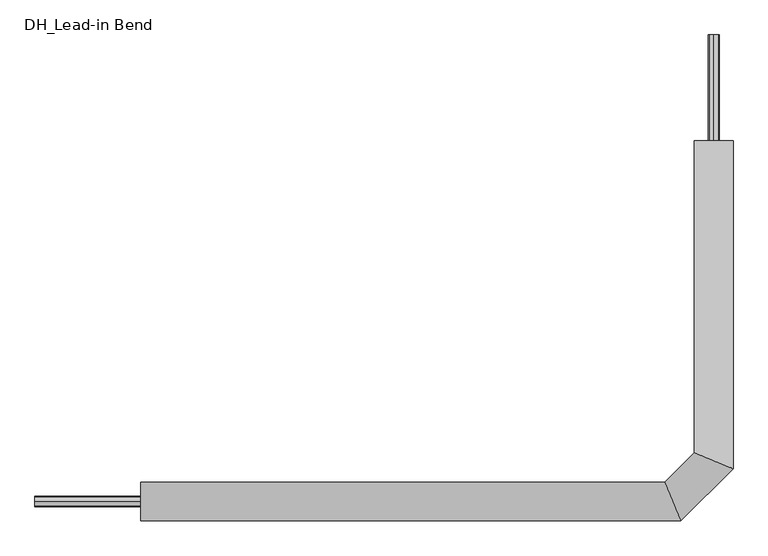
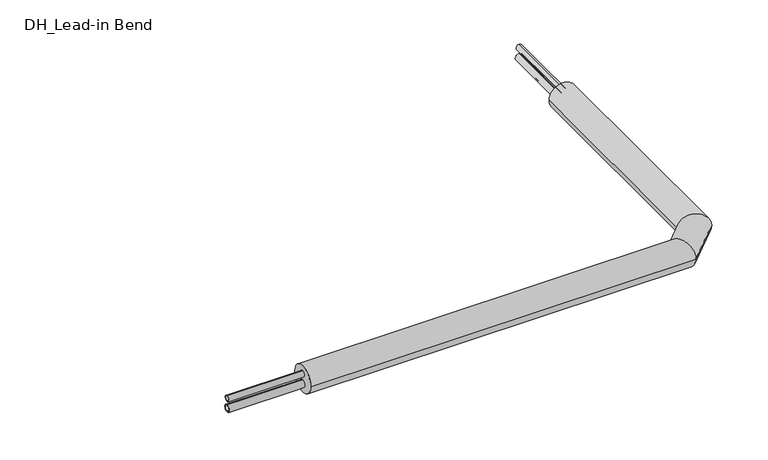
"""IFC4 building model written with IfcOpenShell, lengths in millimetres: pipe fitting geometry, DH_Lead-in Bend : RVT/RVX/RTX DUO 7.4 MKV DW Horizontal."""

import ifcopenshell
import ifcopenshell.guid

model = None  # the IFC model being written
_history = None  # IfcOwnerHistory: only IFC2X3 demands one
_inside = {}  # id of a spatial element -> (the spatial element, [elements in it])
_under = {}  # id of a project, library or spatial element -> (it, [spatial elements below it])
_declared = {}  # id of a project -> (the project, [libraries it declares])
_typed = {}  # id of a type object -> (the type object, [elements of that type])
_made_of = {}  # id of a material, layer set ... -> (it, [elements and type objects made of it])


def new_model(schema):
    """Start an empty IFC model of exactly this schema.

    Asked for "IFC4X3", IfcOpenShell would pick the latest addendum, in which some entities
    have other attributes; the version numbers below select the first issue.
    IFC2X3 requires an IfcOwnerHistory on every rooted entity: one is made here for all.
    """
    global model, _history
    if schema == "IFC4X3":
        model = ifcopenshell.file(schema_version=(4, 3, 0, 0))
    else:
        model = ifcopenshell.file(schema=schema)
    _inside.clear()
    _under.clear()
    _declared.clear()
    _typed.clear()
    _made_of.clear()
    _history = None
    if model.schema == "IFC2X3":
        org = make("IfcOrganization", Name="unknown")
        user = make(
            "IfcPersonAndOrganization",
            ThePerson=make("IfcPerson", FamilyName="unknown"),
            TheOrganization=org,
        )
        app = make(
            "IfcApplication",
            ApplicationDeveloper=org,
            Version="unknown",
            ApplicationFullName="unknown",
            ApplicationIdentifier="unknown",
        )
        _history = make(
            "IfcOwnerHistory",
            OwningUser=user,
            OwningApplication=app,
            ChangeAction="ADDED",
            CreationDate=0,
        )
    return model


def make(cls, **values):
    """One entity of the class cls with the attributes given. An attribute that is None is left unset."""
    return model.create_entity(
        cls, **{name: value for name, value in values.items() if value is not None}
    )


def rooted(cls, **values):
    """An entity with a GlobalId (a new one), such as an element, a storey or a relation."""
    return make(cls, GlobalId=ifcopenshell.guid.new(), OwnerHistory=_history, **values)


def si_unit(unit_type, name, prefix=None):
    """IfcSIUnit, for example si_unit("LENGTHUNIT", "METRE", prefix="MILLI")."""
    return make("IfcSIUnit", UnitType=unit_type, Prefix=prefix, Name=name)


def assignment(units):
    """IfcUnitAssignment: the units of a project."""
    return None if units is None else make("IfcUnitAssignment", Units=units)


def point(xyz):
    """IfcCartesianPoint."""
    return None if xyz is None else make("IfcCartesianPoint", Coordinates=xyz)


def direction(xyz):
    """IfcDirection."""
    return None if xyz is None else make("IfcDirection", DirectionRatios=xyz)


def frame(location, z_axis=None, x_axis=None):
    """IfcAxis2Placement3D, a coordinate frame: its origin and axes. An axis left out is left unset."""
    return make(
        "IfcAxis2Placement3D",
        Location=point(location),
        Axis=direction(z_axis),
        RefDirection=direction(x_axis),
    )


def frame_2d(location, x_axis=None):
    """IfcAxis2Placement2D, a coordinate frame in the plane: its origin and x axis."""
    return make(
        "IfcAxis2Placement2D", Location=point(location), RefDirection=direction(x_axis)
    )


def origin():
    """The frame at (0, 0, 0) with its axes left unset."""
    return frame((0.0, 0.0, 0.0))


def place(relative_to, where):
    """IfcLocalPlacement: puts the frame where relative to a parent placement (None: the world)."""
    return make(
        "IfcLocalPlacement", PlacementRelTo=relative_to, RelativePlacement=where
    )


def context(
    kind, dimensions, precision=None, world=None, true_north=None, identifier=None
):
    """IfcGeometricRepresentationContext, for example the 3D "Model" context."""
    return make(
        "IfcGeometricRepresentationContext",
        ContextIdentifier=identifier,
        ContextType=kind,
        CoordinateSpaceDimension=dimensions,
        Precision=precision,
        WorldCoordinateSystem=world,
        TrueNorth=true_north,
    )


def project(units=None, contexts=None):
    """IfcProject with its units and contexts."""
    return rooted(
        "IfcProject",
        Name="project",
        RepresentationContexts=contexts,
        UnitsInContext=assignment(units),
    )


def spatial(cls, under=None, at=None, **own):
    """A site, building, storey or space (cls), placed at a placement, below another one or the project."""
    s = rooted(cls, ObjectPlacement=at, **own)
    if under is not None:
        _under.setdefault(under.id(), (under, []))[1].append(s)
    return s


def circle_curve(where, radius):
    """IfcCircle in the frame where."""
    return make("IfcCircle", Position=where, Radius=radius)


def ellipse_curve(where, semi_axis1, semi_axis2):
    """IfcEllipse in the frame where."""
    return make(
        "IfcEllipse", Position=where, SemiAxis1=semi_axis1, SemiAxis2=semi_axis2
    )


def trimmed(basis, trim1, trim2, sense, master):
    """IfcTrimmedCurve: the piece of a basis curve between two trims."""
    return make(
        "IfcTrimmedCurve",
        BasisCurve=basis,
        Trim1=trim1,
        Trim2=trim2,
        SenseAgreement=sense,
        MasterRepresentation=master,
    )


def segment(curve, same_sense, transition):
    """IfcCompositeCurveSegment."""
    return make(
        "IfcCompositeCurveSegment",
        Transition=transition,
        SameSense=same_sense,
        ParentCurve=curve,
    )


def composite_curve(segments, self_intersect=None):
    """IfcCompositeCurve: segments joined end to end."""
    return make("IfcCompositeCurve", Segments=segments, SelfIntersect=self_intersect)


def outline(outer, holes=None, kind="AREA"):
    """IfcArbitraryClosedProfileDef: a profile drawn as a closed curve; with holes, ...WithVoids."""
    if holes is None:
        return make("IfcArbitraryClosedProfileDef", ProfileType=kind, OuterCurve=outer)
    return make(
        "IfcArbitraryProfileDefWithVoids",
        ProfileType=kind,
        OuterCurve=outer,
        InnerCurves=holes,
    )


def extrude(swept, where, along, depth):
    """IfcExtrudedAreaSolid: the profile swept, set in the frame where, extruded along a direction by depth."""
    return make(
        "IfcExtrudedAreaSolid",
        SweptArea=swept,
        Position=where,
        ExtrudedDirection=direction(along),
        Depth=depth,
    )


def shape(context_of_items, identifier, shape_type, items):
    """IfcShapeRepresentation: the items that make up one representation, for example the "Body"."""
    return make(
        "IfcShapeRepresentation",
        ContextOfItems=context_of_items,
        RepresentationIdentifier=identifier,
        RepresentationType=shape_type,
        Items=items,
    )


def source(mapping_origin, context_of_items, identifier, shape_type, items):
    """IfcRepresentationMap: a shape defined once, which mapped items show again and again."""
    return make(
        "IfcRepresentationMap",
        MappingOrigin=mapping_origin,
        MappedRepresentation=shape(context_of_items, identifier, shape_type, items),
    )


def transform(
    local_origin,
    x_axis=None,
    y_axis=None,
    z_axis=None,
    scale=None,
    scale2=None,
    scale3=None,
    uniform=True,
):
    """IfcCartesianTransformationOperator3D, or its non-uniform kind. x_axis, y_axis, z_axis: its Axis1, 2, 3."""
    if uniform:
        return make(
            "IfcCartesianTransformationOperator3D",
            Axis1=direction(x_axis),
            Axis2=direction(y_axis),
            LocalOrigin=point(local_origin),
            Scale=scale,
            Axis3=direction(z_axis),
        )
    return make(
        "IfcCartesianTransformationOperator3DnonUniform",
        Axis1=direction(x_axis),
        Axis2=direction(y_axis),
        LocalOrigin=point(local_origin),
        Scale=scale,
        Axis3=direction(z_axis),
        Scale2=scale2,
        Scale3=scale3,
    )


def mapped(mapping_source, mapping_target):
    """IfcMappedItem: shows the shape of a source again, moved by a transform."""
    return make(
        "IfcMappedItem", MappingSource=mapping_source, MappingTarget=mapping_target
    )


def made_of(thing, what):
    """Note that an element or type object is made of a material, layer set ...; save() writes the relation."""
    if what is not None:
        _made_of.setdefault(what.id(), (what, []))[1].append(thing)
    return thing


def element(
    cls,
    number,
    at=None,
    inside=None,
    cuts=None,
    type_object=None,
    material=None,
    context=None,
    identifier="Body",
    shape_type=None,
    held_by="IfcProductDefinitionShape",
    body=None,
    shapes=None,
    **own,
):
    """One element of the class cls, such as IfcWall. Its Tag is "e" and its number.

    at: its placement. inside: the storey or other place that contains it. cuts: it is an
    opening in that element (IfcRelVoidsElement). A single representation is given by context,
    identifier, shape_type and body (its items); several are given by shapes. held_by: the class
    of the entity that holds the representations. save() writes the other relations.
    """
    e = rooted(cls, Tag="e%d" % number, ObjectPlacement=at, **own)
    if body is not None:
        shapes = [shape(context, identifier, shape_type, body)]
    if shapes is not None:
        e.Representation = make(held_by, Representations=shapes)
    if inside is not None:
        _inside.setdefault(inside.id(), (inside, []))[1].append(e)
    if cuts is not None:
        rooted(
            "IfcRelVoidsElement", RelatingBuildingElement=cuts, RelatedOpeningElement=e
        )
    if type_object is not None:
        _typed.setdefault(type_object.id(), (type_object, []))[1].append(e)
    return made_of(e, material)


def aggregate(whole, parts):
    """IfcRelAggregates: a whole, such as a stair, and the parts it consists of."""
    return rooted("IfcRelAggregates", RelatingObject=whole, RelatedObjects=parts)


def save(model, path):
    """Write the relations noted so far, then the file.

    IfcRelAggregates (storeys below a building ...), IfcRelContainedInSpatialStructure (elements
    in a storey), IfcRelDefinesByType, IfcRelAssociatesMaterial and IfcRelDeclares: one each for
    every whole, place, type object, material and project.
    """
    for whole, parts in _under.values():
        aggregate(whole, parts)
    for where, things in _inside.values():
        rooted(
            "IfcRelContainedInSpatialStructure",
            RelatedElements=things,
            RelatingStructure=where,
        )
    for kind, things in _typed.values():
        rooted("IfcRelDefinesByType", RelatedObjects=things, RelatingType=kind)
    for what, things in _made_of.values():
        rooted("IfcRelAssociatesMaterial", RelatedObjects=things, RelatingMaterial=what)
    for by, libraries in _declared.values():
        rooted("IfcRelDeclares", RelatingContext=by, RelatedDefinitions=libraries)
    model.write(path)


def plane_surface(at):
    """IfcPlane: the flat surface through the origin of the frame at, square to its z axis."""
    return make("IfcPlane", Position=at)


def cylinder_surface(at, radius):
    """IfcCylindricalSurface: all points at the distance radius from the z axis of the frame at."""
    return make("IfcCylindricalSurface", Position=at, Radius=radius)


def advanced_brep(points, edges, surfaces, faces):
    """IfcAdvancedBrep: a solid bounded by faces that lie on surfaces and meet in shared edges.

    An edge is (start, end): straight between two places in points (the first is 0);
    or (start, end, curve); or (start, end, curve, False) where it runs against its curve.
    A face is (place in surfaces, loops), or (place, loops, False) where it looks against
    its surface's normal. A loop lists edges by number (the first is 1), with a minus sign
    where the edge is run from its end to its start. The first loop is the outer one.
    """
    corners = [point(p) for p in points]
    vertices = [make("IfcVertexPoint", VertexGeometry=c) for c in corners]
    made = []
    for start, end, *more in edges:
        made.append(
            make(
                "IfcEdgeCurve",
                EdgeStart=vertices[start],
                EdgeEnd=vertices[end],
                EdgeGeometry=more[0] if more else make("IfcPolyline", Points=[corners[start], corners[end]]),
                SameSense=more[1] if len(more) > 1 else True,
            )
        )
    hull = []
    for where, loops, *sense in faces:
        bounds = []
        for j, loop in enumerate(loops):
            ring = [make("IfcOrientedEdge", EdgeElement=made[abs(k) - 1], Orientation=k > 0) for k in loop]
            bounds.append(
                make(
                    "IfcFaceOuterBound" if j == 0 else "IfcFaceBound",
                    Bound=make("IfcEdgeLoop", EdgeList=ring),
                    Orientation=True,
                )
            )
        hull.append(make("IfcAdvancedFace", Bounds=bounds, FaceSurface=surfaces[where], SameSense=sense[0] if sense else True))
    return make("IfcAdvancedBrep", Outer=make("IfcClosedShell", CfsFaces=hull))


def dh_lead_in_bend_6a66a6e7(model_context):
    return source(origin(), model_context, "Body", "SolidModel", [
        extrude(outline(composite_curve([segment(trimmed(circle_curve(frame_2d((0.0, -16.0)), 12.5), [point((0.0, -3.5))], [point((0.0, -28.5))], False, "CARTESIAN"), True, "CONTINUOUS"), segment(trimmed(circle_curve(frame_2d((0.0, -16.0)), 12.5), [point((0.0, -28.5))], [point((0.0, -3.5))], False, "CARTESIAN"), True, "CONTINUOUS")], self_intersect=False), holes=[composite_curve([segment(trimmed(circle_curve(frame_2d((0.0, -16.0)), 9.0), [point((0.0, -7.0))], [point((0.0, -25.0))], True, "CARTESIAN"), True, "CONTINUOUS"), segment(trimmed(circle_curve(frame_2d((0.0, -16.0)), 9.0), [point((0.0, -25.0))], [point((0.0, -7.0))], True, "CARTESIAN"), True, "CONTINUOUS")], self_intersect=False)]), frame((-1600.0, 0.0, 0.0), z_axis=(1.0, 0.0, 0.0), x_axis=(0.0, 1.0, 0.0)), (0.0, 0.0, 1.0), 250.0),
        advanced_brep(
        [(-1350.0, -45.5, 0.0), (-1350.0, 45.5, 0.0), (-77.6532829, -45.5, 0.0), (-115.3467171, 45.5, 0.0), (45.5, 850.0, 0.0), (-45.5, 850.0, 0.0), (-45.5, 115.3467171, 0.0), (45.5, 77.6532829, 0.0)],
        [
            (0, 1, circle_curve(frame((-1350.0, 0.0, 0.0), z_axis=(-1.0, 0.0, 0.0), x_axis=(0.0, 1.0, 0.0)), 45.5)),
            (1, 0, circle_curve(frame((-1350.0, 0.0, 0.0), z_axis=(-1.0, 0.0, 0.0), x_axis=(0.0, 1.0, 0.0)), 45.5)),
            (0, 2),
            (2, 3, ellipse_curve(frame((-96.5, 0.0, 0.0), z_axis=(-0.9238795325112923, -0.38268343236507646, 0.0), x_axis=(-0.38268343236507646, 0.9238795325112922, 0.0)), 49.2488451, 45.5)),
            (3, 1),
            (3, 2, ellipse_curve(frame((-96.5, 0.0, 0.0), z_axis=(-0.9238795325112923, -0.38268343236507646, 0.0), x_axis=(-0.38268343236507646, 0.9238795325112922, 0.0)), 49.2488451, 45.5)),
            (4, 5, circle_curve(frame((0.0, 850.0, 0.0), z_axis=(0.0, 1.0, 0.0), x_axis=(-1.0, 0.0, 0.0)), 45.5)),
            (5, 4, circle_curve(frame((0.0, 850.0, 0.0), z_axis=(0.0, 1.0, 0.0), x_axis=(-1.0, 0.0, 0.0)), 45.5)),
            (6, 7, ellipse_curve(frame((0.0, 96.5, 0.0), z_axis=(0.3826834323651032, 0.9238795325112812, 0.0), x_axis=(0.9238795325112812, -0.3826834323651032, 0.0)), 49.2488451, 45.5)),
            (7, 4),
            (5, 6),
            (7, 6, ellipse_curve(frame((0.0, 96.5, 0.0), z_axis=(0.3826834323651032, 0.9238795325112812, 0.0), x_axis=(0.9238795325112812, -0.3826834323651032, 0.0)), 49.2488451, 45.5)),
            (2, 7),
            (6, 3),
        ],
        [
            plane_surface(frame((-1350.0, 0.0, 0.0), z_axis=(-1.0, 0.0, 0.0), x_axis=(0.0, 0.0, 1.0))),
            cylinder_surface(frame((-1350.0, 0.0, 0.0), z_axis=(-1.0, 0.0, 0.0), x_axis=(0.0, 1.0, 0.0)), 45.5),
            plane_surface(frame((0.0, 850.0, 0.0), z_axis=(0.0, 1.0, 0.0), x_axis=(0.0, 0.0, 1.0))),
            cylinder_surface(frame((0.0, 96.5, 0.0), z_axis=(0.0, -1.0, 0.0), x_axis=(-1.0, 0.0, 0.0)), 45.5),
            cylinder_surface(frame((-96.5, 0.0, 0.0), z_axis=(-0.707106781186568, -0.7071067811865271, 0.0), x_axis=(-0.7071067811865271, 0.707106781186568, 0.0)), 45.5),
        ],
        [
            (0, [[1, 2]]),
            (1, [[-1, 3, 4, 5]]),
            (1, [[-2, -5, 6, -3]]),
            (2, [[7, 8]]),
            (3, [[9, 10, -8, 11]]),
            (3, [[12, -11, -7, -10]]),
            (4, [[-4, 13, -9, 14]]),
            (4, [[-6, -14, -12, -13]]),
        ],
    ),
        extrude(outline(composite_curve([segment(trimmed(circle_curve(frame_2d((18.5, 0.0)), 10.0), [point((8.5, 0.0))], [point((28.5, 0.0))], False, "CARTESIAN"), True, "CONTINUOUS"), segment(trimmed(circle_curve(frame_2d((18.5, 0.0)), 10.0), [point((28.5, 0.0))], [point((8.5, 0.0))], False, "CARTESIAN"), True, "CONTINUOUS")], self_intersect=False), holes=[composite_curve([segment(trimmed(circle_curve(frame_2d((18.5, 0.0)), 7.2), [point((11.3, 0.0))], [point((25.7, 0.0))], True, "CARTESIAN"), True, "CONTINUOUS"), segment(trimmed(circle_curve(frame_2d((18.5, 0.0)), 7.2), [point((25.7, 0.0))], [point((11.3, 0.0))], True, "CARTESIAN"), True, "CONTINUOUS")], self_intersect=False)]), frame((0.0, 850.0, 0.0), z_axis=(0.0, 1.0, 0.0), x_axis=(0.0, 0.0, 1.0)), (0.0, 0.0, 1.0), 250.0),
        extrude(outline(composite_curve([segment(trimmed(circle_curve(frame_2d((0.0, 18.5)), 10.0), [point((0.0, 8.5))], [point((0.0, 28.5))], False, "CARTESIAN"), True, "CONTINUOUS"), segment(trimmed(circle_curve(frame_2d((0.0, 18.5)), 10.0), [point((0.0, 28.5))], [point((0.0, 8.5))], False, "CARTESIAN"), True, "CONTINUOUS")], self_intersect=False), holes=[composite_curve([segment(trimmed(circle_curve(frame_2d((0.0, 18.5)), 7.2), [point((0.0, 11.3))], [point((0.0, 25.7))], True, "CARTESIAN"), True, "CONTINUOUS"), segment(trimmed(circle_curve(frame_2d((0.0, 18.5)), 7.2), [point((0.0, 25.7))], [point((0.0, 11.3))], True, "CARTESIAN"), True, "CONTINUOUS")], self_intersect=False)]), frame((-1600.0, 0.0, 0.0), z_axis=(1.0, 0.0, 0.0), x_axis=(0.0, 1.0, 0.0)), (0.0, 0.0, 1.0), 250.0),
        extrude(outline(composite_curve([segment(trimmed(circle_curve(frame_2d((-16.0, 0.0)), 12.5), [point((-3.5, 0.0))], [point((-28.5, 0.0))], False, "CARTESIAN"), True, "CONTINUOUS"), segment(trimmed(circle_curve(frame_2d((-16.0, 0.0)), 12.5), [point((-28.5, 0.0))], [point((-3.5, 0.0))], False, "CARTESIAN"), True, "CONTINUOUS")], self_intersect=False), holes=[composite_curve([segment(trimmed(circle_curve(frame_2d((-16.0, 0.0)), 9.0), [point((-7.0, 0.0))], [point((-25.0, 0.0))], True, "CARTESIAN"), True, "CONTINUOUS"), segment(trimmed(circle_curve(frame_2d((-16.0, 0.0)), 9.0), [point((-25.0, 0.0))], [point((-7.0, 0.0))], True, "CARTESIAN"), True, "CONTINUOUS")], self_intersect=False)]), frame((0.0, 850.0, 0.0), z_axis=(0.0, 1.0, 0.0), x_axis=(0.0, 0.0, 1.0)), (0.0, 0.0, 1.0), 250.0),
    ])


if __name__ == "__main__":
    model = new_model("IFC4")
    model_context = context("Model", 3, world=origin())
    ifc_project = project(units=[si_unit("LENGTHUNIT", "METRE", prefix="MILLI")], contexts=[model_context])
    site = spatial("IfcSite", under=ifc_project)
    building = spatial("IfcBuilding", under=site)
    placement = place(None, origin())
    dh_lead_in_bend_shape = dh_lead_in_bend_6a66a6e7(model_context)
    element("IfcPipeFitting", 1, ObjectType="DH_Lead-in Bend : RVT/RVX/RTX DUO 7.4 MKV DW Horizontal", at=placement, inside=building, context=model_context, shape_type="MappedRepresentation", body=[
        mapped(dh_lead_in_bend_shape, transform((0.0, 0.0, 0.0), x_axis=(1.0, 0.0, 0.0), y_axis=(0.0, 1.0, 0.0), z_axis=(0.0, 0.0, 1.0))),
    ])
    save(model, "model.ifc")
